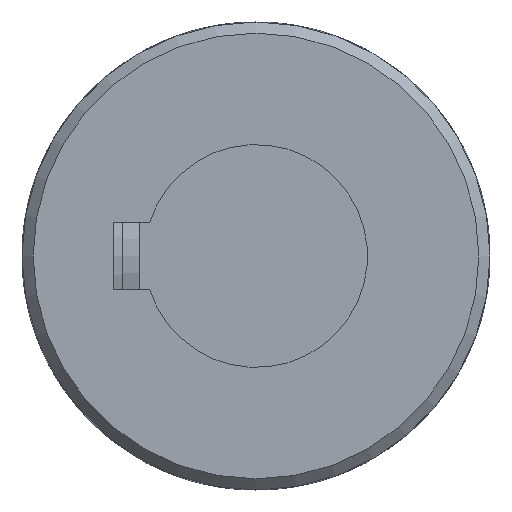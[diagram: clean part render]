
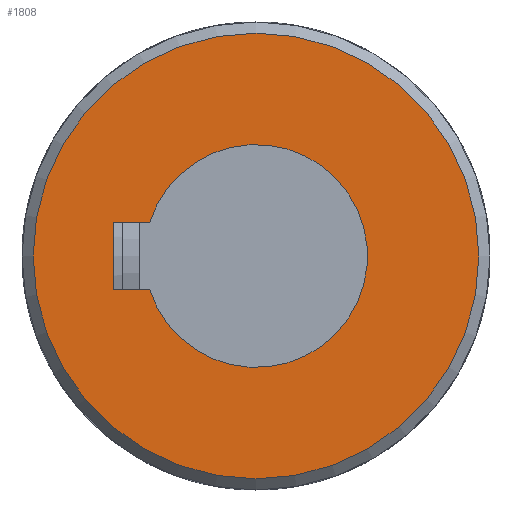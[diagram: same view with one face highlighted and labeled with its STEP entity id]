
A CAD part, front view. The second image highlights one B-rep face of the part: STEP entity #1808.
In plain terms, the highlighted planar face has unit normal (0, -1, 0).
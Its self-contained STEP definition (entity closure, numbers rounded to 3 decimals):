
#110=LINE('',#3433,#167);
#114=LINE('',#3456,#171);
#116=LINE('',#3464,#173);
#167=VECTOR('',#2375,3.261);
#171=VECTOR('',#2387,6.);
#173=VECTOR('',#2391,3.261);
#223=PLANE('',#1995);
#396=FACE_BOUND('',#634,.T.);
#487=FACE_OUTER_BOUND('',#633,.T.);
#633=EDGE_LOOP('',(#1581));
#634=EDGE_LOOP('',(#1582,#1583,#1584,#1585));
#730=CIRCLE('',#1984,10.);
#734=CIRCLE('',#1993,20.);
#879=VERTEX_POINT('',#3430);
#880=VERTEX_POINT('',#3432);
#883=VERTEX_POINT('',#3442);
#885=VERTEX_POINT('',#3454);
#890=VERTEX_POINT('',#3511);
#1107=EDGE_CURVE('',#880,#879,#110,.T.);
#1111=EDGE_CURVE('',#883,#880,#730,.T.);
#1115=EDGE_CURVE('',#879,#885,#114,.T.);
#1118=EDGE_CURVE('',#885,#883,#116,.T.);
#1124=EDGE_CURVE('',#890,#890,#734,.T.);
#1581=ORIENTED_EDGE('',*,*,#1124,.F.);
#1582=ORIENTED_EDGE('',*,*,#1115,.T.);
#1583=ORIENTED_EDGE('',*,*,#1118,.T.);
#1584=ORIENTED_EDGE('',*,*,#1111,.T.);
#1585=ORIENTED_EDGE('',*,*,#1107,.T.);
#1808=ADVANCED_FACE('',(#487,#396),#223,.F.);
#1984=AXIS2_PLACEMENT_3D('',#3443,#2381,#2382);
#1993=AXIS2_PLACEMENT_3D('',#3512,#2404,#2405);
#1995=AXIS2_PLACEMENT_3D('',#3736,#2412,#2413);
#2375=DIRECTION('',(0.,0.,-1.));
#2381=DIRECTION('center_axis',(0.,1.,0.));
#2382=DIRECTION('ref_axis',(-0.3,0.,0.954));
#2387=DIRECTION('',(-1.,0.,0.));
#2391=DIRECTION('',(0.,0.,1.));
#2404=DIRECTION('center_axis',(0.,1.,0.));
#2405=DIRECTION('ref_axis',(1.,0.,0.));
#2412=DIRECTION('center_axis',(0.,1.,0.));
#2413=DIRECTION('ref_axis',(0.,0.,1.));
#3430=CARTESIAN_POINT('',(3.,-51.,-12.8));
#3432=CARTESIAN_POINT('',(3.,-51.,-9.539));
#3433=CARTESIAN_POINT('',(3.,-51.,-4.77));
#3442=CARTESIAN_POINT('',(-3.,-51.,-9.539));
#3443=CARTESIAN_POINT('Origin',(0.,-51.,0.));
#3454=CARTESIAN_POINT('',(-3.,-51.,-12.8));
#3456=CARTESIAN_POINT('',(1.5,-51.,-12.8));
#3464=CARTESIAN_POINT('',(-3.,-51.,-6.4));
#3511=CARTESIAN_POINT('',(-20.,-51.,0.));
#3512=CARTESIAN_POINT('Origin',(0.,-51.,0.));
#3736=CARTESIAN_POINT('Origin',(0.,-51.,0.));
